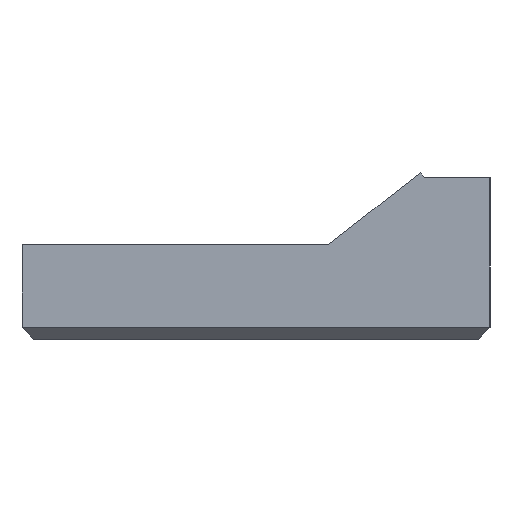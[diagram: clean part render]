
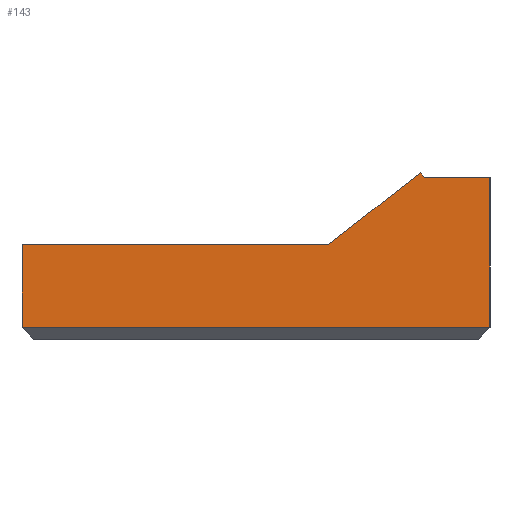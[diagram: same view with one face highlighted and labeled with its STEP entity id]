
A CAD part, left-side view. The second image highlights one B-rep face of the part: STEP entity #143.
In plain terms, the highlighted planar face has unit normal (-1, 0, 0).
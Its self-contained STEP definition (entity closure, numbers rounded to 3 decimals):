
#143=ADVANCED_FACE('',(#275),#2205,.T.);
#275=FACE_OUTER_BOUND('',#413,.T.);
#413=EDGE_LOOP('',(#1076,#1077,#1078,#1079,#1080,#1081,#1082));
#1076=ORIENTED_EDGE('',*,*,#1489,.T.);
#1077=ORIENTED_EDGE('',*,*,#1484,.T.);
#1078=ORIENTED_EDGE('',*,*,#1446,.F.);
#1079=ORIENTED_EDGE('',*,*,#1460,.T.);
#1080=ORIENTED_EDGE('',*,*,#1457,.T.);
#1081=ORIENTED_EDGE('',*,*,#1468,.T.);
#1082=ORIENTED_EDGE('',*,*,#1465,.T.);
#1446=EDGE_CURVE('',#2056,#2058,#1802,.T.);
#1457=EDGE_CURVE('',#2067,#2065,#1813,.T.);
#1460=EDGE_CURVE('',#2056,#2067,#1816,.T.);
#1465=EDGE_CURVE('',#2068,#2081,#1821,.T.);
#1468=EDGE_CURVE('',#2065,#2068,#1824,.T.);
#1484=EDGE_CURVE('',#2078,#2058,#1840,.T.);
#1489=EDGE_CURVE('',#2081,#2078,#1845,.T.);
#1802=B_SPLINE_CURVE_WITH_KNOTS('',1,(#4744,#4745),.UNSPECIFIED.,.F.,.F.,
(2,2),(0.,2.228),.UNSPECIFIED.);
#1813=B_SPLINE_CURVE_WITH_KNOTS('',1,(#4766,#4767),.UNSPECIFIED.,.F.,.F.,
(2,2),(-4.,-0.069),.UNSPECIFIED.);
#1816=B_SPLINE_CURVE_WITH_KNOTS('',3,(#4772,#4773,#4774,#4775),
 .UNSPECIFIED.,.F.,.F.,(4,4),(-0.212,0.),.UNSPECIFIED.);
#1821=B_SPLINE_CURVE_WITH_KNOTS('',1,(#4790,#4791),.UNSPECIFIED.,.F.,.F.,
(2,2),(0.,2.8),.UNSPECIFIED.);
#1824=B_SPLINE_CURVE_WITH_KNOTS('',1,(#4796,#4797),.UNSPECIFIED.,.F.,.F.,
(2,2),(-24.625,-14.274),.UNSPECIFIED.);
#1840=B_SPLINE_CURVE_WITH_KNOTS('',1,(#4950,#4951),.UNSPECIFIED.,.F.,.F.,
(2,2),(0.4,5.463),.UNSPECIFIED.);
#1845=B_SPLINE_CURVE_WITH_KNOTS('',1,(#4980,#4981),.UNSPECIFIED.,.F.,.F.,
(2,2),(0.,15.8),.UNSPECIFIED.);
#2056=VERTEX_POINT('',#4336);
#2058=VERTEX_POINT('',#4338);
#2065=VERTEX_POINT('',#4345);
#2067=VERTEX_POINT('',#4347);
#2068=VERTEX_POINT('',#4348);
#2078=VERTEX_POINT('',#4358);
#2081=VERTEX_POINT('',#4361);
#2205=PLANE('',#2405);
#2405=AXIS2_PLACEMENT_3D('',#3888,#2520,$);
#2520=DIRECTION('',(-1.,0.,0.));
#3888=CARTESIAN_POINT('',(-18.8,20.558,23.836));
#4336=CARTESIAN_POINT('',(-18.8,-5.812,5.463));
#4338=CARTESIAN_POINT('',(-18.8,-8.04,5.463));
#4345=CARTESIAN_POINT('',(-18.8,-2.591,3.2));
#4347=CARTESIAN_POINT('',(-18.8,-5.689,5.62));
#4348=CARTESIAN_POINT('',(-18.8,7.76,3.2));
#4358=CARTESIAN_POINT('',(-18.8,-8.04,0.4));
#4361=CARTESIAN_POINT('',(-18.8,7.76,0.4));
#4744=CARTESIAN_POINT('',(-18.8,-5.812,5.463));
#4745=CARTESIAN_POINT('',(-18.8,-8.04,5.463));
#4766=CARTESIAN_POINT('',(-18.8,-5.689,5.62));
#4767=CARTESIAN_POINT('',(-18.8,-2.591,3.2));
#4772=CARTESIAN_POINT('',(-18.8,-5.812,5.463));
#4773=CARTESIAN_POINT('',(-18.8,-5.771,5.515));
#4774=CARTESIAN_POINT('',(-18.8,-5.73,5.568));
#4775=CARTESIAN_POINT('',(-18.8,-5.689,5.62));
#4790=CARTESIAN_POINT('',(-18.8,7.76,3.2));
#4791=CARTESIAN_POINT('',(-18.8,7.76,0.4));
#4796=CARTESIAN_POINT('',(-18.8,-2.591,3.2));
#4797=CARTESIAN_POINT('',(-18.8,7.76,3.2));
#4950=CARTESIAN_POINT('',(-18.8,-8.04,0.4));
#4951=CARTESIAN_POINT('',(-18.8,-8.04,5.463));
#4980=CARTESIAN_POINT('',(-18.8,7.76,0.4));
#4981=CARTESIAN_POINT('',(-18.8,-8.04,0.4));
